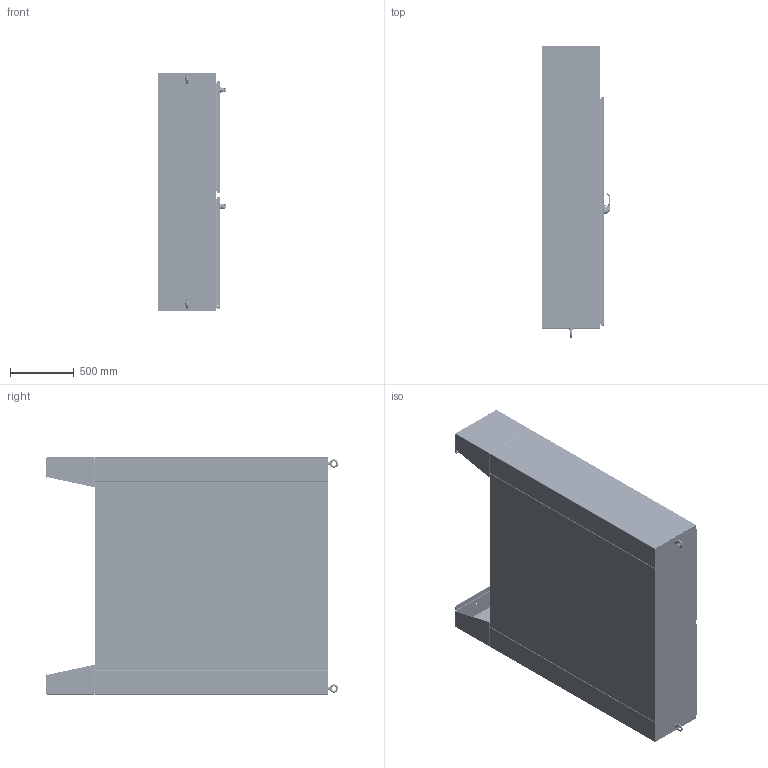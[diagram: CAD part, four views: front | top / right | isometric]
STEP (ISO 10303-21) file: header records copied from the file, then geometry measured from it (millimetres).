
FILE_DESCRIPTION((''),'2;1');
FILE_NAME('MODEL-130_ASM','2025-04-03T10:53:38',('joshi'),('SAGINAW CONTROL & ENGINEERING'),'CREO PARAMETRIC BY PTC INC, 2021284','CREO PARAMETRIC BY PTC INC, 2021284','');
FILE_SCHEMA(('AUTOMOTIVE_DESIGN { 1 0 10303 214 1 1 1 1 }'));
Length unit declared in the file: inch
Products named in the file (124): MODEL-130-BTM; MODEL-130-RS; MODEL-130-LS; MODEL-130-TP; MODEL-130-BCK; MODEL-130-MN-DR; 100837; 111267; 100882; 100953_SCREW_MTG; 100953_PADLOCK_CATCH; 100953_SCREW_LARGE; 100953_INSERT_SHAFT; 100953_INSERT_PCH; 100953_GASKET; 100953_O-RING; 100953_BASE; 100953_SPRING; 100953_HANDLE; 100953_CAM_SHAFT; 100953_HANDLE_ASM; 100953_CAM_ADAPTER; 100953_EARTH_NUT; 100953_FLANGE_NUT; 100953_CAM_NUT; 100953_CP_INSERT; 100953_SPRING_CAM; 100953_TORSION_SPRING; 100953_SCREW_INSERT; 100953_ASM; 102237; 100030; 102237_ASM; MODEL-130-ROD-UPR-MD; 128146; 128145; 128144; 102482; MODEL-130-ROD-UPR-MD_ASM; 128143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
Assembly tree (255 placements, depth 5):
  MODEL-130_ASM
    MODEL-130-BTM
    MODEL-130-RS
    MODEL-130-LS
    MODEL-130-TP
    MODEL-130-BCK
    MODEL-130-M-DOOR-ASSY_ASM
      MODEL-130-MN-DR
      100837  x7
      111267
      100882  x12
      100953_ASM
        100953_SCREW_MTG
        100953_PADLOCK_CATCH
        100953_SCREW_LARGE  x2
        100953_INSERT_SHAFT
        100953_INSERT_PCH
        100953_GASKET
        100953_O-RING
        100953_BASE
        100953_SPRING
        100953_HANDLE_ASM
          100953_HANDLE
          100953_CAM_SHAFT
        100953_CAM_ADAPTER
        100953_EARTH_NUT
        100953_FLANGE_NUT
        100953_CAM_NUT
        100953_CP_INSERT
        100953_SPRING_CAM
        100953_TORSION_SPRING
        100953_SCREW_INSERT
      102237_ASM
        102237
        100030  x2
      MODEL-130-ROD-UPR-MD_ASM
        MODEL-130-ROD-UPR-MD
        128146
        128145
        128144
        102482  x2
      128143  x2
      112504  x2
      MODEL-130-ROD-LWR-MD_ASM
        MODEL-130-ROD-LWR-MD
        128146
        128145
        128144
        102482  x2
      MODEL-130-PR-GSKT-M
      128257_ASM  x4
        128257
      126393  x4
      102483  x4
      101369_ASM  x4
        101369
        101369-STUD
      101221  x4
    MODEL-130-S-DOOR-ASSY_ASM
      MODEL-130-SEC-DR
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Bounding box: 535.27 x 2284.6 x 1854.2 mm (x, y, z)
Volume: 44203808.2 mm3; surface area: 31718400.3 mm2
Topology: 281 solids, 281 shells, 27263 faces, 68878 edges, 42296 vertices
Faces by surface type: plane 9261, cylinder 7339, bspline 5961, torus 2138, cone 1371, sphere 812, extrusion 381
Entity records: 839215 total; most frequent: CARTESIAN_POINT 374975, ORIENTED_EDGE 71496, DIRECTION 65628, PRESENTATION_STYLE_ASSIGNMENT 36836, STYLED_ITEM 36802, EDGE_CURVE 35748, CURVE_STYLE 35700, AXIS2_PLACEMENT_3D 24406
